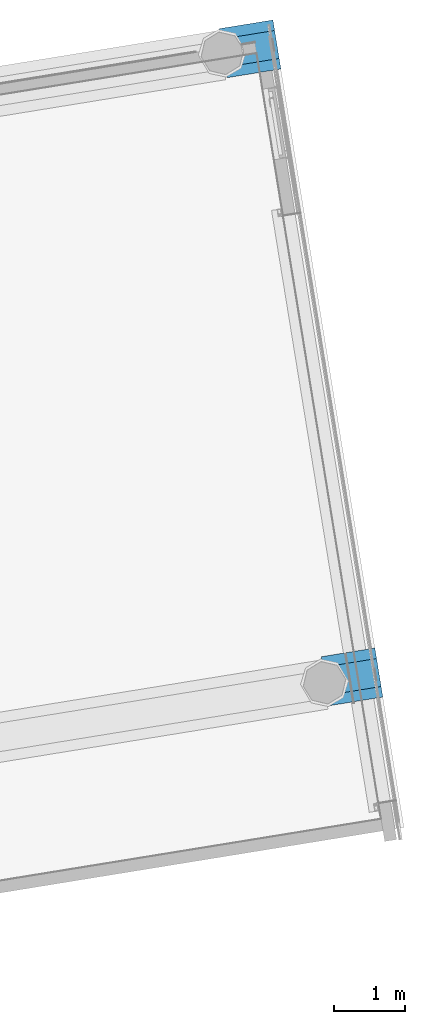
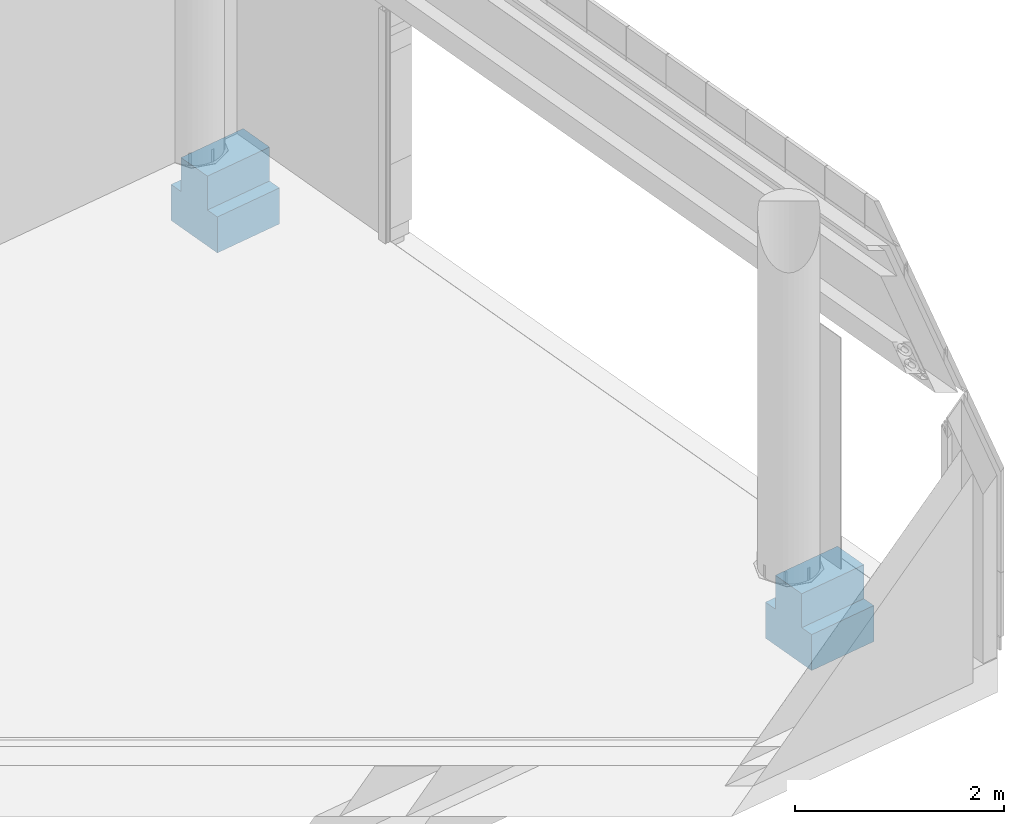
# One storey, part 19 of 38: 2 beams.
"""IFC2X3 building model written with IfcOpenShell, lengths in millimetres."""

from ifc_helpers import new_model, entity, si_unit, converted_unit, derived_unit, direction, frame, origin, origin_with_axes, place, context, subcontext, project, spatial, faceted_brep, type_object, element, save


model = new_model("IFC2X3")

# Units and contexts
model_context = context("Model", 3, precision=0.01, world=origin(), true_north=direction((6.12323399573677e-17, 1.0)))
plan_context = context("Plan", 3, precision=1e-05, world=origin_with_axes())
body_context = subcontext(model_context, "Body", "Model", "MODEL_VIEW")
ifc_project = project(units=[converted_unit("PLANEANGLEUNIT", "DEGREE", entity("IfcPositiveLengthMeasure", 0.0174532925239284), si_unit("PLANEANGLEUNIT", "RADIAN"), dimensions=[0, 0, 0, 0, 0, 0, 0]), si_unit("AREAUNIT", "SQUARE_METRE"), si_unit("LENGTHUNIT", "METRE", prefix="MILLI"), si_unit("MASSUNIT", "GRAM", prefix="KILO"), si_unit("POWERUNIT", "WATT"), si_unit("PRESSUREUNIT", "PASCAL", prefix="KILO"), si_unit("FORCEUNIT", "NEWTON", prefix="KILO"), si_unit("ELECTRICVOLTAGEUNIT", "VOLT"), si_unit("ELECTRICCURRENTUNIT", "AMPERE"), si_unit("THERMODYNAMICTEMPERATUREUNIT", "DEGREE_CELSIUS"), si_unit("TIMEUNIT", "SECOND"), si_unit("VOLUMEUNIT", "CUBIC_METRE"), derived_unit("LINEARVELOCITYUNIT", [(si_unit("LENGTHUNIT", "METRE"), 1), (si_unit("TIMEUNIT", "SECOND"), -1)]), derived_unit("VOLUMETRICFLOWRATEUNIT", [(si_unit("VOLUMEUNIT", "CUBIC_METRE"), 1), (si_unit("TIMEUNIT", "SECOND"), -1)]), derived_unit("THERMALTRANSMITTANCEUNIT", [(si_unit("POWERUNIT", "WATT"), 1), (si_unit("THERMODYNAMICTEMPERATUREUNIT", "KELVIN"), -1), (si_unit("AREAUNIT", "SQUARE_METRE"), -1)]), derived_unit("SOUNDPRESSUREUNIT", [(si_unit("PRESSUREUNIT", "PASCAL"), 1)])], contexts=[model_context, plan_context])

# Site, building, storey
site_placement = place(None, frame((-0.00071070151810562, 0.00438415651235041, 0.0), z_axis=(0.0, 0.0, 1.0), x_axis=(-0.160236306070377, 0.987078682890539, 0.0)))
site = spatial("IfcSite", under=ifc_project, at=site_placement, Name="Default", CompositionType="ELEMENT")
building_placement = place(site_placement, origin_with_axes())
building = spatial("IfcBuilding", under=site, at=building_placement, Name="TOO", CompositionType="ELEMENT")
storey_placement = place(building_placement, frame((0.0, 0.0, 50999.9999999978), z_axis=(0.0, 0.0, 1.0), x_axis=(1.0, 0.0, 0.0)))
storey = spatial("IfcBuildingStorey", under=building, at=storey_placement, Name="Nivå D-H01", CompositionType="ELEMENT", Elevation=50999.9999999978)

# Beams
beam_type = type_object("IfcBeamType", Name="A223 - DLB Prefab. Betongbjelke:A223 - DLB Prefab. Betongbjelke - 815 x 700 x 400 mm", PredefinedType="BEAM")
beam_1_placement = place(storey_placement, frame((779877.619644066, -603502.480498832, 0.0), z_axis=(0.0, 0.0, 1.0), x_axis=(0.0, -1.0, 0.0)))
element("IfcBeam", 1, at=beam_1_placement, inside=storey, type_object=beam_type, Name="A223 - DLB Prefab. Betongbjelke:A223 - DLB Prefab. Betongbjelke - 815 x 700 x 400 mm", ObjectType="A223 - DLB Prefab. Betongbjelke:A223 - DLB Prefab. Betongbjelke - 815 x 700 x 400 mm", context=body_context, shape_type="Brep", body=[
    faceted_brep([(780.00000000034, -200.0, -619.999999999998), (780.00000000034, -350.0, -619.999999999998), (12.7000006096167, -350.0, -619.999999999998), (12.7000006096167, -200.0, -619.999999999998), (780.00000000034, -350.0, -1040.0), (12.7000006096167, -350.0, -1040.0), (780.00000000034, 350.0, -1040.0), (12.7000006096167, 350.0, -1040.0), (780.00000000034, 350.0, -619.999999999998), (12.7000006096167, 350.0, -619.999999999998), (780.00000000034, 200.0, -619.999999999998), (12.7000006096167, 200.0, -619.999999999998), (780.00000000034, 200.0, -225.000000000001), (12.7000006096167, 200.0, -225.000000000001), (780.00000000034, -200.0, -225.000000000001), (12.7000006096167, -200.0, -225.000000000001)], [[[0, 1, 2, 3]], [[1, 4, 5, 2]], [[4, 6, 7, 5]], [[6, 8, 9, 7]], [[8, 10, 11, 9]], [[10, 12, 13, 11]], [[12, 14, 15, 13]], [[14, 0, 3, 15]], [[3, 2, 5, 7, 9, 11, 13, 15]], [[14, 12, 10, 8, 6, 4, 1, 0]]], orient=[[False], [False], [False], [False], [False], [False], [False], [False], [False], [False]]),
])
beam_2_placement = place(storey_placement, frame((770547.619644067, -612489.780498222, -225.0), z_axis=(0.0, 0.0, 1.0), x_axis=(0.0, -1.0, 0.0)))
element("IfcBeam", 2, at=beam_2_placement, inside=storey, type_object=beam_type, Name="A223 - DLB Prefab. Betongbjelke:A223 - DLB Prefab. Betongbjelke - 815 x 700 x 400 mm", ObjectType="A223 - DLB Prefab. Betongbjelke:A223 - DLB Prefab. Betongbjelke - 815 x 700 x 400 mm", context=body_context, shape_type="Brep", body=[
    faceted_brep([(-8974.59999878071, 150.0, -395.0), (-8974.59999878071, 0.0, -395.0), (-8974.59999878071, 0.0, -815.0), (-8974.59999878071, 700.0, -815.0), (-8974.59999878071, 700.0, -395.0), (-8974.59999878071, 550.0, -395.0), (-8974.59999878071, 550.0, 0.0), (-8974.59999878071, 150.0, 0.0), (-8207.29999939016, 150.0, 0.0), (-8207.29999939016, 150.0, -395.0), (-8207.29999939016, 0.0, -395.0), (-8207.29999939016, 0.0, -815.0), (-8207.29999939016, 700.0, -815.0), (-8207.29999939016, 700.0, -395.0), (-8207.29999939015, 550.0, -395.0), (-8207.29999939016, 550.0, 0.0)], [[[0, 1, 2, 3, 4, 5, 6, 7]], [[8, 9, 0, 7]], [[9, 10, 1, 0]], [[10, 11, 2, 1]], [[11, 12, 3, 2]], [[12, 13, 4, 3]], [[13, 14, 5, 4]], [[14, 15, 6, 5]], [[15, 8, 7, 6]], [[15, 14, 13, 12, 11, 10, 9, 8]]], orient=[[False], [False], [False], [False], [False], [False], [False], [False], [False], [False]]),
])

save(model, "model.ifc")
